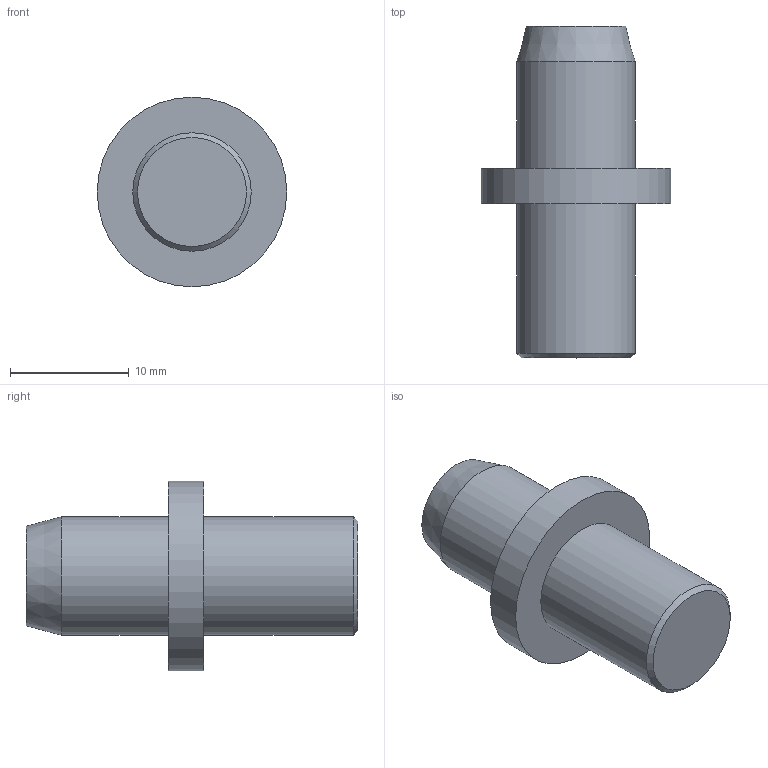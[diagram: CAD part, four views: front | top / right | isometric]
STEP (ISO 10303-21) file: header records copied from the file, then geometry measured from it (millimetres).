
FILE_DESCRIPTION(('Open CASCADE Model'),'2;1');
FILE_NAME('Open CASCADE Shape Model','2026-09-27T02:18:03',('Author'),( 'Open CASCADE'),'Open CASCADE STEP processor 7.9','Open CASCADE 7.9' ,'Unknown');
FILE_SCHEMA(('AUTOMOTIVE_DESIGN { 1 0 10303 214 1 1 1 1 }'));
Length unit declared in the file: millimetre
Products named in the file (1): Open CASCADE STEP translator 7.9 11
Bounding box: 16 x 28 x 16 mm (x, y, z)
Volume: 2528.4 mm3; surface area: 1303 mm2
Topology: 1 solids, 1 shells, 9 faces, 13 edges, 8 vertices
Faces by surface type: plane 4, cylinder 3, cone 2
Full cylindrical faces by diameter (mm): 10 x2, 16 x1
Entity records: 376 total; most frequent: DIRECTION 65, CARTESIAN_POINT 59, ORIENTED_EDGE 26, PCURVE 26, DEFINITIONAL_REPRESENTATION 26, LINE 23, VECTOR 23, AXIS2_PLACEMENT_3D 18
